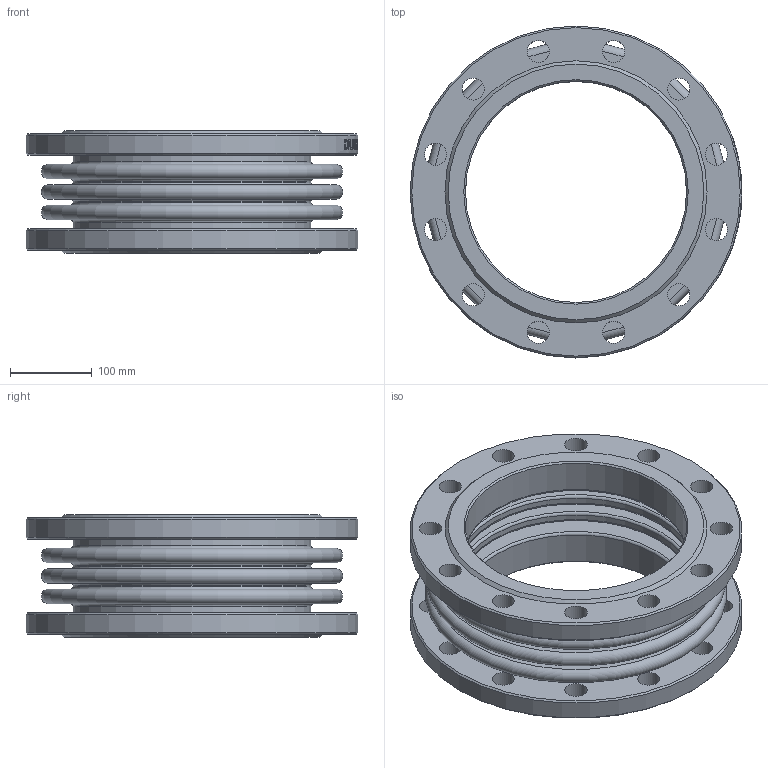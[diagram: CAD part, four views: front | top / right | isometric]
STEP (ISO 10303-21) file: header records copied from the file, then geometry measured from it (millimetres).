
FILE_DESCRIPTION(/* description */ ('D140-02120','CAx-IF Rec.Pracs.---Representation and Presentation of Product Manufacturing Information (PMI)---4.0---2014-10-13'),/* implementation_level */ '2;1');
FILE_NAME(/* name */ '',/* time_stamp */ '2026-04-14T00:11:56+03:00',/* author */ ('DN.RU'),/* organization */ ('DN.RU'),/* preprocessor_version */ 'ST-DEVELOPER v20',/* originating_system */ 'Autodesk Inventor 2025',/* authorisation */ '');
FILE_SCHEMA (('AP242_MANAGED_MODEL_BASED_3D_ENGINEERING_MIM_LF { 1 0 10303 442 1 1 4 }'));
Length unit declared in the file: millimetre
Products named in the file (1): CB-3234-F
Bounding box: 405 x 405 x 150 mm (x, y, z)
Volume: 4452768.9 mm3; surface area: 1089482.2 mm2
Topology: 1 solids, 1 shells, 293 faces, 757 edges, 504 vertices
Faces by surface type: plane 116, bspline 95, cylinder 56, torus 18, cone 8
Full cylindrical faces by diameter (mm): 27 x24, 270 x2, 284 x2, 290 x4, 300 x2, 405 x2
Entity records: 12596 total; most frequent: CARTESIAN_POINT 5052, ORIENTED_EDGE 1514, DIRECTION 1289, EDGE_CURVE 757, VERTEX_POINT 504, AXIS2_PLACEMENT_3D 486, EDGE_LOOP 381, STYLED_ITEM 371
